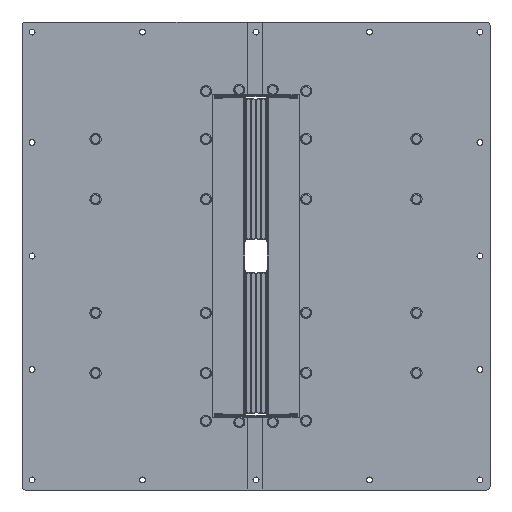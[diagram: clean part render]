
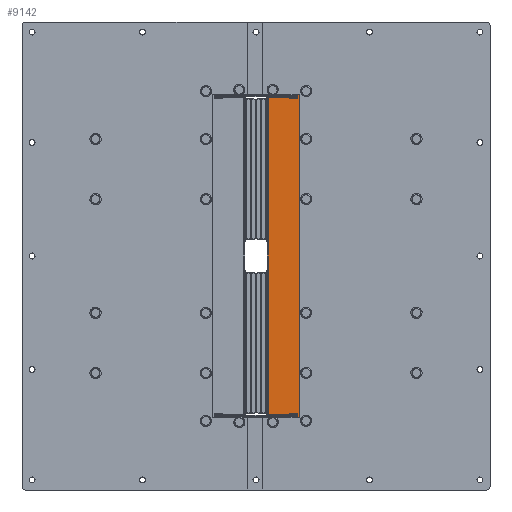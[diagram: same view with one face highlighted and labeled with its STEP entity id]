
A CAD part, left-side view. The second image highlights one B-rep face of the part: STEP entity #9142.
In plain terms, the highlighted planar face has unit normal (-1, 0, 0).
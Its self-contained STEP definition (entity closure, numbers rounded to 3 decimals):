
#8357=AXIS2_PLACEMENT_3D('Plane Axis2P3D',#8354,#8355,#8356) ;
#8491=AXIS2_PLACEMENT_3D('Circle Axis2P3D',#8489,#8490,$) ;
#8553=AXIS2_PLACEMENT_3D('Circle Axis2P3D',#8551,#8552,$) ;
#8822=AXIS2_PLACEMENT_3D('Circle Axis2P3D',#8820,#8821,$) ;
#8870=AXIS2_PLACEMENT_3D('Circle Axis2P3D',#8868,#8869,$) ;
#9036=AXIS2_PLACEMENT_3D('Circle Axis2P3D',#9034,#9035,$) ;
#9045=AXIS2_PLACEMENT_3D('Circle Axis2P3D',#9043,#9044,$) ;
#9054=AXIS2_PLACEMENT_3D('Circle Axis2P3D',#9052,#9053,$) ;
#9063=AXIS2_PLACEMENT_3D('Circle Axis2P3D',#9061,#9062,$) ;
#9072=AXIS2_PLACEMENT_3D('Circle Axis2P3D',#9070,#9071,$) ;
#9081=AXIS2_PLACEMENT_3D('Circle Axis2P3D',#9079,#9080,$) ;
#9090=AXIS2_PLACEMENT_3D('Circle Axis2P3D',#9088,#9089,$) ;
#9099=AXIS2_PLACEMENT_3D('Circle Axis2P3D',#9097,#9098,$) ;
#9108=AXIS2_PLACEMENT_3D('Circle Axis2P3D',#9106,#9107,$) ;
#9117=AXIS2_PLACEMENT_3D('Circle Axis2P3D',#9115,#9116,$) ;
#9126=AXIS2_PLACEMENT_3D('Circle Axis2P3D',#9124,#9125,$) ;
#9135=AXIS2_PLACEMENT_3D('Circle Axis2P3D',#9133,#9134,$) ;
#8354=CARTESIAN_POINT('Axis2P3D Location',(0.,0.,0.)) ;
#8395=CARTESIAN_POINT('Vertex',(0.,-60.,238.5)) ;
#8400=CARTESIAN_POINT('Line Origine',(0.,-60.,249.25)) ;
#8404=CARTESIAN_POINT('Vertex',(0.,-60.,260.)) ;
#8458=CARTESIAN_POINT('Line Origine',(0.,-69.,260.)) ;
#8462=CARTESIAN_POINT('Vertex',(0.,-78.,260.)) ;
#8489=CARTESIAN_POINT('Axis2P3D Location',(0.,-78.,255.)) ;
#8493=CARTESIAN_POINT('Vertex',(0.,-83.,255.)) ;
#8520=CARTESIAN_POINT('Line Origine',(0.,-83.,0.)) ;
#8524=CARTESIAN_POINT('Vertex',(0.,-83.,-255.)) ;
#8551=CARTESIAN_POINT('Axis2P3D Location',(0.,-78.,-255.)) ;
#8555=CARTESIAN_POINT('Vertex',(0.,-78.,-260.)) ;
#8582=CARTESIAN_POINT('Line Origine',(0.,-69.,-260.)) ;
#8586=CARTESIAN_POINT('Vertex',(0.,-60.,-260.)) ;
#8608=CARTESIAN_POINT('Line Origine',(0.,-60.,-249.25)) ;
#8612=CARTESIAN_POINT('Vertex',(0.,-60.,-238.5)) ;
#8647=CARTESIAN_POINT('Vertex',(0.,-60.,237.)) ;
#8650=CARTESIAN_POINT('Line Origine',(0.,-60.,237.75)) ;
#8683=CARTESIAN_POINT('Vertex',(0.,-18.62,237.)) ;
#8686=CARTESIAN_POINT('Line Origine',(0.,-39.31,237.)) ;
#8817=CARTESIAN_POINT('Vertex',(0.,-18.12,236.5)) ;
#8820=CARTESIAN_POINT('Axis2P3D Location',(0.,-18.62,236.5)) ;
#8841=CARTESIAN_POINT('Vertex',(0.,-18.12,-236.5)) ;
#8844=CARTESIAN_POINT('Line Origine',(0.,-18.12,0.)) ;
#8865=CARTESIAN_POINT('Vertex',(0.,-18.62,-237.)) ;
#8868=CARTESIAN_POINT('Axis2P3D Location',(0.,-18.62,-236.5)) ;
#8889=CARTESIAN_POINT('Vertex',(0.,-60.,-237.)) ;
#8892=CARTESIAN_POINT('Line Origine',(0.,-39.31,-237.)) ;
#8909=CARTESIAN_POINT('Line Origine',(0.,-60.,-237.75)) ;
#9034=CARTESIAN_POINT('Axis2P3D Location',(0.,-73.5,175.)) ;
#9038=CARTESIAN_POINT('Vertex',(0.,-79.,175.)) ;
#9040=CARTESIAN_POINT('Vertex',(0.,-68.,175.)) ;
#9043=CARTESIAN_POINT('Axis2P3D Location',(0.,-73.5,175.)) ;
#9052=CARTESIAN_POINT('Axis2P3D Location',(0.,-73.5,85.)) ;
#9056=CARTESIAN_POINT('Vertex',(0.,-79.,85.)) ;
#9058=CARTESIAN_POINT('Vertex',(0.,-68.,85.)) ;
#9061=CARTESIAN_POINT('Axis2P3D Location',(0.,-73.5,85.)) ;
#9070=CARTESIAN_POINT('Axis2P3D Location',(0.,-73.5,-85.)) ;
#9074=CARTESIAN_POINT('Vertex',(0.,-79.,-85.)) ;
#9076=CARTESIAN_POINT('Vertex',(0.,-68.,-85.)) ;
#9079=CARTESIAN_POINT('Axis2P3D Location',(0.,-73.5,-85.)) ;
#9088=CARTESIAN_POINT('Axis2P3D Location',(0.,-73.5,-175.)) ;
#9092=CARTESIAN_POINT('Vertex',(0.,-79.,-175.)) ;
#9094=CARTESIAN_POINT('Vertex',(0.,-68.,-175.)) ;
#9097=CARTESIAN_POINT('Axis2P3D Location',(0.,-73.5,-175.)) ;
#9106=CARTESIAN_POINT('Axis2P3D Location',(0.,-73.5,246.5)) ;
#9110=CARTESIAN_POINT('Vertex',(0.,-79.,246.5)) ;
#9112=CARTESIAN_POINT('Vertex',(0.,-68.,246.5)) ;
#9115=CARTESIAN_POINT('Axis2P3D Location',(0.,-73.5,246.5)) ;
#9124=CARTESIAN_POINT('Axis2P3D Location',(0.,-73.5,-246.5)) ;
#9128=CARTESIAN_POINT('Vertex',(0.,-79.,-246.5)) ;
#9130=CARTESIAN_POINT('Vertex',(0.,-68.,-246.5)) ;
#9133=CARTESIAN_POINT('Axis2P3D Location',(0.,-73.5,-246.5)) ;
#8355=DIRECTION('Axis2P3D Direction',(1.,0.,0.)) ;
#8356=DIRECTION('Axis2P3D XDirection',(0.,1.,0.)) ;
#8401=DIRECTION('Vector Direction',(0.,0.,-1.)) ;
#8459=DIRECTION('Vector Direction',(0.,-1.,0.)) ;
#8490=DIRECTION('Axis2P3D Direction',(1.,0.,0.)) ;
#8521=DIRECTION('Vector Direction',(0.,0.,1.)) ;
#8552=DIRECTION('Axis2P3D Direction',(1.,0.,0.)) ;
#8583=DIRECTION('Vector Direction',(0.,1.,0.)) ;
#8609=DIRECTION('Vector Direction',(0.,0.,-1.)) ;
#8651=DIRECTION('Vector Direction',(0.,0.,-1.)) ;
#8687=DIRECTION('Vector Direction',(0.,1.,0.)) ;
#8821=DIRECTION('Axis2P3D Direction',(1.,0.,0.)) ;
#8845=DIRECTION('Vector Direction',(0.,0.,1.)) ;
#8869=DIRECTION('Axis2P3D Direction',(1.,0.,0.)) ;
#8893=DIRECTION('Vector Direction',(0.,-1.,0.)) ;
#8910=DIRECTION('Vector Direction',(0.,0.,-1.)) ;
#9035=DIRECTION('Axis2P3D Direction',(1.,0.,0.)) ;
#9044=DIRECTION('Axis2P3D Direction',(1.,0.,0.)) ;
#9053=DIRECTION('Axis2P3D Direction',(1.,0.,0.)) ;
#9062=DIRECTION('Axis2P3D Direction',(1.,0.,0.)) ;
#9071=DIRECTION('Axis2P3D Direction',(1.,0.,0.)) ;
#9080=DIRECTION('Axis2P3D Direction',(1.,0.,0.)) ;
#9089=DIRECTION('Axis2P3D Direction',(1.,0.,0.)) ;
#9098=DIRECTION('Axis2P3D Direction',(1.,0.,0.)) ;
#9107=DIRECTION('Axis2P3D Direction',(1.,0.,0.)) ;
#9116=DIRECTION('Axis2P3D Direction',(1.,0.,0.)) ;
#9125=DIRECTION('Axis2P3D Direction',(1.,0.,0.)) ;
#9134=DIRECTION('Axis2P3D Direction',(1.,0.,0.)) ;
#8402=VECTOR('Line Direction',#8401,1.) ;
#8460=VECTOR('Line Direction',#8459,1.) ;
#8522=VECTOR('Line Direction',#8521,1.) ;
#8584=VECTOR('Line Direction',#8583,1.) ;
#8610=VECTOR('Line Direction',#8609,1.) ;
#8652=VECTOR('Line Direction',#8651,1.) ;
#8688=VECTOR('Line Direction',#8687,1.) ;
#8846=VECTOR('Line Direction',#8845,1.) ;
#8894=VECTOR('Line Direction',#8893,1.) ;
#8911=VECTOR('Line Direction',#8910,1.) ;
#9019=ORIENTED_EDGE('',*,*,#8654,.T.) ;
#9020=ORIENTED_EDGE('',*,*,#8690,.T.) ;
#9021=ORIENTED_EDGE('',*,*,#8824,.T.) ;
#9022=ORIENTED_EDGE('',*,*,#8848,.T.) ;
#9023=ORIENTED_EDGE('',*,*,#8872,.T.) ;
#9024=ORIENTED_EDGE('',*,*,#8896,.T.) ;
#9025=ORIENTED_EDGE('',*,*,#8913,.T.) ;
#9026=ORIENTED_EDGE('',*,*,#8614,.F.) ;
#9027=ORIENTED_EDGE('',*,*,#8588,.F.) ;
#9028=ORIENTED_EDGE('',*,*,#8557,.F.) ;
#9029=ORIENTED_EDGE('',*,*,#8526,.F.) ;
#9030=ORIENTED_EDGE('',*,*,#8495,.F.) ;
#9031=ORIENTED_EDGE('',*,*,#8464,.F.) ;
#9032=ORIENTED_EDGE('',*,*,#8406,.F.) ;
#9049=ORIENTED_EDGE('',*,*,#9042,.T.) ;
#9050=ORIENTED_EDGE('',*,*,#9047,.T.) ;
#9067=ORIENTED_EDGE('',*,*,#9060,.T.) ;
#9068=ORIENTED_EDGE('',*,*,#9065,.T.) ;
#9085=ORIENTED_EDGE('',*,*,#9078,.T.) ;
#9086=ORIENTED_EDGE('',*,*,#9083,.T.) ;
#9103=ORIENTED_EDGE('',*,*,#9096,.T.) ;
#9104=ORIENTED_EDGE('',*,*,#9101,.T.) ;
#9121=ORIENTED_EDGE('',*,*,#9114,.T.) ;
#9122=ORIENTED_EDGE('',*,*,#9119,.T.) ;
#9139=ORIENTED_EDGE('',*,*,#9132,.T.) ;
#9140=ORIENTED_EDGE('',*,*,#9137,.T.) ;
#9051=FACE_BOUND('',#9048,.T.) ;
#9069=FACE_BOUND('',#9066,.T.) ;
#9087=FACE_BOUND('',#9084,.T.) ;
#9105=FACE_BOUND('',#9102,.T.) ;
#9123=FACE_BOUND('',#9120,.T.) ;
#9141=FACE_BOUND('',#9138,.T.) ;
#9142=ADVANCED_FACE('Laterale(L3)',(#9033,#9051,#9069,#9087,#9105,#9123,#9141),#8358,.F.) ;
#8492=CIRCLE('generated circle',#8491,5.) ;
#8554=CIRCLE('generated circle',#8553,5.) ;
#8823=CIRCLE('generated circle',#8822,0.5) ;
#8871=CIRCLE('generated circle',#8870,0.5) ;
#9037=CIRCLE('generated circle',#9036,5.5) ;
#9046=CIRCLE('generated circle',#9045,5.5) ;
#9055=CIRCLE('generated circle',#9054,5.5) ;
#9064=CIRCLE('generated circle',#9063,5.5) ;
#9073=CIRCLE('generated circle',#9072,5.5) ;
#9082=CIRCLE('generated circle',#9081,5.5) ;
#9091=CIRCLE('generated circle',#9090,5.5) ;
#9100=CIRCLE('generated circle',#9099,5.5) ;
#9109=CIRCLE('generated circle',#9108,5.5) ;
#9118=CIRCLE('generated circle',#9117,5.5) ;
#9127=CIRCLE('generated circle',#9126,5.5) ;
#9136=CIRCLE('generated circle',#9135,5.5) ;
#8406=EDGE_CURVE('',#8396,#8405,#8403,.F.) ;
#8464=EDGE_CURVE('',#8405,#8463,#8461,.T.) ;
#8495=EDGE_CURVE('',#8463,#8494,#8492,.T.) ;
#8526=EDGE_CURVE('',#8494,#8525,#8523,.F.) ;
#8557=EDGE_CURVE('',#8525,#8556,#8554,.T.) ;
#8588=EDGE_CURVE('',#8556,#8587,#8585,.T.) ;
#8614=EDGE_CURVE('',#8587,#8613,#8611,.F.) ;
#8654=EDGE_CURVE('',#8396,#8648,#8653,.T.) ;
#8690=EDGE_CURVE('',#8648,#8684,#8689,.T.) ;
#8824=EDGE_CURVE('',#8684,#8818,#8823,.F.) ;
#8848=EDGE_CURVE('',#8818,#8842,#8847,.F.) ;
#8872=EDGE_CURVE('',#8842,#8866,#8871,.F.) ;
#8896=EDGE_CURVE('',#8866,#8890,#8895,.T.) ;
#8913=EDGE_CURVE('',#8890,#8613,#8912,.T.) ;
#9042=EDGE_CURVE('',#9039,#9041,#9037,.T.) ;
#9047=EDGE_CURVE('',#9041,#9039,#9046,.T.) ;
#9060=EDGE_CURVE('',#9057,#9059,#9055,.T.) ;
#9065=EDGE_CURVE('',#9059,#9057,#9064,.T.) ;
#9078=EDGE_CURVE('',#9075,#9077,#9073,.T.) ;
#9083=EDGE_CURVE('',#9077,#9075,#9082,.T.) ;
#9096=EDGE_CURVE('',#9093,#9095,#9091,.T.) ;
#9101=EDGE_CURVE('',#9095,#9093,#9100,.T.) ;
#9114=EDGE_CURVE('',#9111,#9113,#9109,.T.) ;
#9119=EDGE_CURVE('',#9113,#9111,#9118,.T.) ;
#9132=EDGE_CURVE('',#9129,#9131,#9127,.T.) ;
#9137=EDGE_CURVE('',#9131,#9129,#9136,.T.) ;
#9018=EDGE_LOOP('',(#9019,#9020,#9021,#9022,#9023,#9024,#9025,#9026,#9027,#9028,#9029,#9030,#9031,#9032)) ;
#9048=EDGE_LOOP('',(#9049,#9050)) ;
#9066=EDGE_LOOP('',(#9067,#9068)) ;
#9084=EDGE_LOOP('',(#9085,#9086)) ;
#9102=EDGE_LOOP('',(#9103,#9104)) ;
#9120=EDGE_LOOP('',(#9121,#9122)) ;
#9138=EDGE_LOOP('',(#9139,#9140)) ;
#9033=FACE_OUTER_BOUND('',#9018,.T.) ;
#8403=LINE('Line',#8400,#8402) ;
#8461=LINE('Line',#8458,#8460) ;
#8523=LINE('Line',#8520,#8522) ;
#8585=LINE('Line',#8582,#8584) ;
#8611=LINE('Line',#8608,#8610) ;
#8653=LINE('Line',#8650,#8652) ;
#8689=LINE('Line',#8686,#8688) ;
#8847=LINE('Line',#8844,#8846) ;
#8895=LINE('Line',#8892,#8894) ;
#8912=LINE('Line',#8909,#8911) ;
#8358=PLANE('',#8357) ;
#8396=VERTEX_POINT('',#8395) ;
#8405=VERTEX_POINT('',#8404) ;
#8463=VERTEX_POINT('',#8462) ;
#8494=VERTEX_POINT('',#8493) ;
#8525=VERTEX_POINT('',#8524) ;
#8556=VERTEX_POINT('',#8555) ;
#8587=VERTEX_POINT('',#8586) ;
#8613=VERTEX_POINT('',#8612) ;
#8648=VERTEX_POINT('',#8647) ;
#8684=VERTEX_POINT('',#8683) ;
#8818=VERTEX_POINT('',#8817) ;
#8842=VERTEX_POINT('',#8841) ;
#8866=VERTEX_POINT('',#8865) ;
#8890=VERTEX_POINT('',#8889) ;
#9039=VERTEX_POINT('',#9038) ;
#9041=VERTEX_POINT('',#9040) ;
#9057=VERTEX_POINT('',#9056) ;
#9059=VERTEX_POINT('',#9058) ;
#9075=VERTEX_POINT('',#9074) ;
#9077=VERTEX_POINT('',#9076) ;
#9093=VERTEX_POINT('',#9092) ;
#9095=VERTEX_POINT('',#9094) ;
#9111=VERTEX_POINT('',#9110) ;
#9113=VERTEX_POINT('',#9112) ;
#9129=VERTEX_POINT('',#9128) ;
#9131=VERTEX_POINT('',#9130) ;
